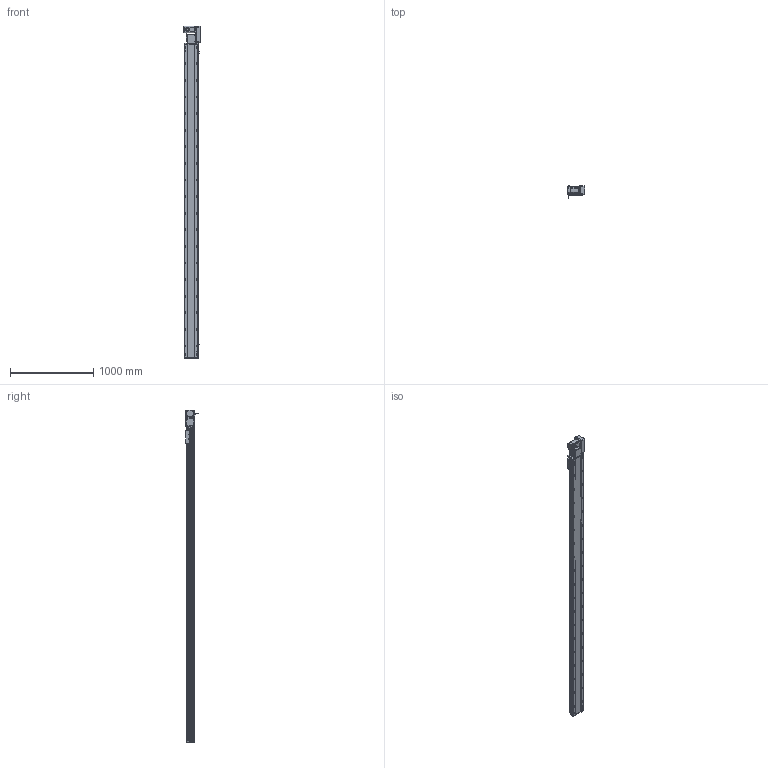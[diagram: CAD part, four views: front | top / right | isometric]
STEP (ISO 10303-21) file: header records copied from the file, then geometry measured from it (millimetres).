
FILE_DESCRIPTION (( 'STEP AP214' ), '1' );
FILE_NAME ('RTB17S-XX-3500-R-M75-C4.STEP', '2025-12-12T01:53:41', ( '' ), ( '' ), 'SwSTEP 2.0', 'SolidWorks 2018', '' );
FILE_SCHEMA (( 'AUTOMOTIVE_DESIGN' ));
Length unit declared in the file: millimetre
Products named in the file (15): RTB17S-L-004-賑釱^RTB17S-賑釱_RTB17S-XX-XX-R-M75-C4; RTB17S-L-001-耜醱啣^RTB17S-XX-XX-R-M75-C4; RTH13-BL-012覜茼え俋离^RTB17S-賑釱_RTB17S-XX-XX-R-M75-C4; RTB17-R-011菁釱^RTB17S-XX-XX-R-M75-C4; EE672^RTB17S-XX-XX-R-M75-C4; RTB17S-賑釱^RTB17S-XX-XX-R-M75-C4; RTB22S-GY-008-M75--萇儂啣^RTB17S-R-々湍釱蚾饜-750W_RTB17S-XX-XX-R-M75-C4; RTB17S-L-007奻裔^RTB17S-XX-XX-R-M75-C4; 750W萇儂^RTB17S-XX-XX-R-M75-C4; RTB22S-GY-017P^RTB17S-R-々湍釱蚾饜-750W_RTB17S-XX-XX-R-M75-C4; RTB22S-GY-005P^RTB17S-R-々湍釱蚾饜-750W_RTB17S-XX-XX-R-M75-C4; RTB17S-R-々湍釱蚾饜-750W^RTB17S-XX-XX-R-M75-C4; RTB17S-XX-3500-R-M75-C4; RTB22S-GY-018P^RTB17S-R-々湍釱蚾饜-750W_RTB17S-XX-XX-R-M75-C4; RTB17S-L-014-T20-P75--々湍釱^RTB17S-R-々湍釱蚾饜-750W_RTB17S-XX-XX-R-M75-C4
Assembly tree (17 placements, depth 3):
  RTB17S-XX-3500-R-M75-C4
    RTB17-R-011菁釱^RTB17S-XX-XX-R-M75-C4
    EE672^RTB17S-XX-XX-R-M75-C4  x3
    RTB17S-L-001-耜醱啣^RTB17S-XX-XX-R-M75-C4
    RTB17S-賑釱^RTB17S-XX-XX-R-M75-C4
      RTB17S-L-004-賑釱^RTB17S-賑釱_RTB17S-XX-XX-R-M75-C4
      RTH13-BL-012覜茼え俋离^RTB17S-賑釱_RTB17S-XX-XX-R-M75-C4
    RTB17S-L-007奻裔^RTB17S-XX-XX-R-M75-C4
    750W萇儂^RTB17S-XX-XX-R-M75-C4
    RTB17S-R-々湍釱蚾饜-750W^RTB17S-XX-XX-R-M75-C4
      RTB17S-L-014-T20-P75--々湍釱^RTB17S-R-々湍釱蚾饜-750W_RTB17S-XX-XX-R-M75-C4
      RTB22S-GY-005P^RTB17S-R-々湍釱蚾饜-750W_RTB17S-XX-XX-R-M75-C4
      RTB22S-GY-017P^RTB17S-R-々湍釱蚾饜-750W_RTB17S-XX-XX-R-M75-C4  x2
      RTB22S-GY-008-M75--萇儂啣^RTB17S-R-々湍釱蚾饜-750W_RTB17S-XX-XX-R-M75-C4
      RTB22S-GY-018P^RTB17S-R-々湍釱蚾饜-750W_RTB17S-XX-XX-R-M75-C4
Bounding box: 207.4 x 152.7 x 3999 mm (x, y, z)
Volume: 27826415.1 mm3; surface area: 5142641.4 mm2
Topology: 17 solids, 17 shells, 2297 faces, 6484 edges, 4202 vertices
Faces by surface type: plane 996, cylinder 885, bspline 294, cone 110, sphere 8, torus 4
Entity records: 68086 total; most frequent: CARTESIAN_POINT 20348, ORIENTED_EDGE 9812, DIRECTION 9032, EDGE_CURVE 4906, AXIS2_PLACEMENT_3D 3222, VERTEX_POINT 3206, LINE 2588, VECTOR 2588
